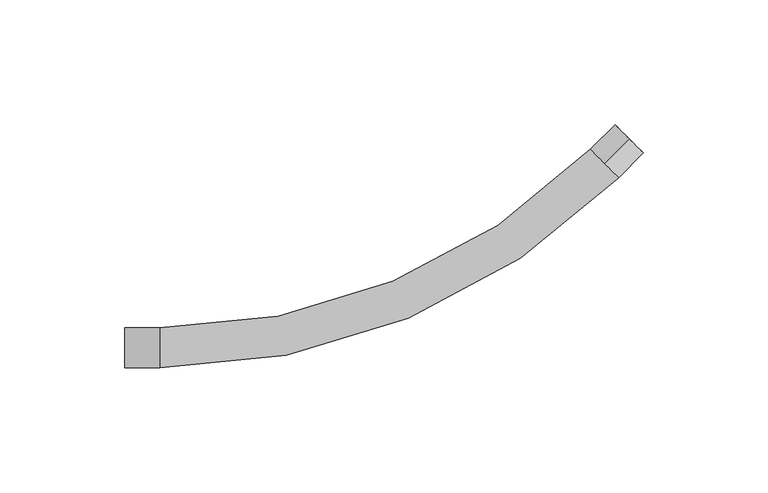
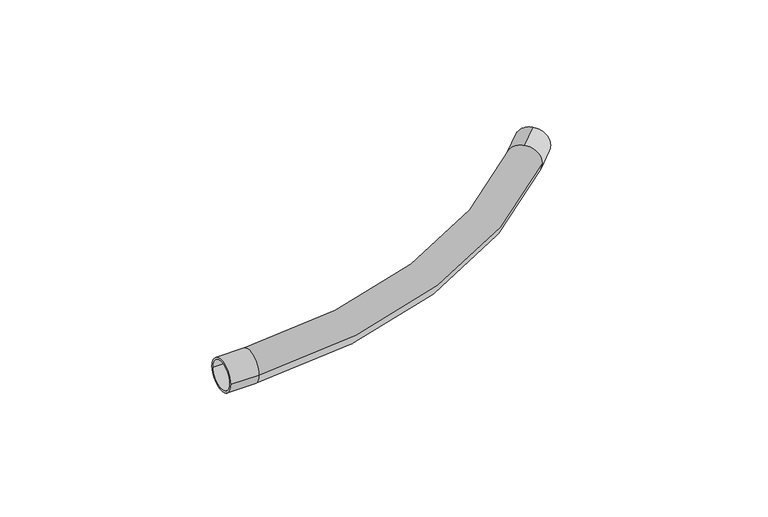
"""IFC4 building model written with IfcOpenShell, lengths in millimetres: cable carrier fitting geometry, КНС_МуфтаГибкаяТрубаТруба_IP65_DKC : Коробка."""

from ifc_helpers import new_model, si_unit, point, frame, origin, place, context, project, spatial, polyline, circle_curve, ellipse_curve, trimmed, source, transform, mapped, element, save
from ifc_brep_helpers import plane_surface, cylinder_surface, revolved_surface, advanced_brep


def cable_carrier_fitting_06bcf47e(model_context):
    return source(origin(), model_context, "Body", "AdvancedBrep", [
        advanced_brep(
        [(-118.4238313, -8.0, 0.0), (-118.4238313, 8.0, 0.0), (-118.4238313, -7.0, 0.0), (-118.4238313, 7.0, 0.0), (-104.4238313, -8.0, 0.0), (-104.4238313, 8.0, 0.0), (-104.4238313, -7.0, 0.0), (-104.4238313, 7.0, 0.0), (73.8387993, 73.8387993, 7.0), (73.8387993, 73.8387993, -7.0), (79.4956535, 68.181945, 0.0), (73.8387993, 73.8387993, 8.0), (68.181945, 79.4956535, 0.0), (73.8387993, 73.8387993, -8.0), (83.7382942, 83.7382942, -8.0), (83.7382942, 83.7382942, 8.0), (83.7382942, 83.7382942, -7.0), (83.7382942, 83.7382942, 7.0)],
        [
            (0, 1, circle_curve(frame((-118.4238313, 0.0, 0.0), z_axis=(-1.0, 0.0, 0.0), x_axis=(0.0, 1.0, 0.0)), 8.0)),
            (1, 0, circle_curve(frame((-118.4238313, 0.0, 0.0), z_axis=(-1.0, 0.0, 0.0), x_axis=(0.0, 1.0, 0.0)), 8.0)),
            (2, 3, circle_curve(frame((-118.4238313, 0.0, 0.0), z_axis=(1.0, 0.0, 0.0), x_axis=(0.0, 1.0, 0.0)), 7.0)),
            (3, 2, circle_curve(frame((-118.4238313, 0.0, 0.0), z_axis=(1.0, 0.0, 0.0), x_axis=(0.0, 1.0, 0.0)), 7.0)),
            (0, 4),
            (4, 5, circle_curve(frame((-104.4238313, 0.0, 0.0), z_axis=(-1.0, 0.0, 0.0), x_axis=(0.0, 1.0, 0.0)), 8.0)),
            (5, 1),
            (5, 4, circle_curve(frame((-104.4238313, 0.0, 0.0), z_axis=(-1.0, 0.0, 0.0), x_axis=(0.0, 1.0, 0.0)), 8.0)),
            (2, 6),
            (6, 7, circle_curve(frame((-104.4238313, 0.0, 0.0), z_axis=(1.0, 0.0, 0.0), x_axis=(0.0, 1.0, 0.0)), 7.0)),
            (7, 3),
            (7, 6, circle_curve(frame((-104.4238313, 0.0, 0.0), z_axis=(1.0, 0.0, 0.0), x_axis=(0.0, 1.0, 0.0)), 7.0)),
            (8, 9, circle_curve(frame((73.8387993, 73.8387993, 0.0), z_axis=(0.7071067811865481, 0.707106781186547, 0.0), x_axis=(0.0, 0.0, 1.0)), 7.0)),
            (9, 8, circle_curve(frame((73.8387993, 73.8387993, 0.0), z_axis=(0.7071067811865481, 0.707106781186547, 0.0), x_axis=(0.0, 0.0, 1.0)), 7.0)),
            (4, 10, circle_curve(frame((-104.4238313, 252.1014299, 0.0), z_axis=(0.0, 0.0, 1.0), x_axis=(0.7071067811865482, -0.7071067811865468, 0.0)), 260.1014299)),
            (10, 11, circle_curve(frame((73.8387993, 73.8387993, 0.0), z_axis=(-0.7071067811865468, -0.7071067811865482, 0.0), x_axis=(0.7071067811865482, -0.7071067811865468, 0.0)), 8.0)),
            (11, 12, circle_curve(frame((73.8387993, 73.8387993, 0.0), z_axis=(-0.7071067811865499, -0.7071067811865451, 0.0), x_axis=(0.7071067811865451, -0.7071067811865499, 0.0)), 8.0)),
            (12, 5, circle_curve(frame((-104.4238313, 252.1014299, 0.0), z_axis=(0.0, 0.0, -1.0), x_axis=(0.7071067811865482, -0.7071067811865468, 0.0)), 244.1014299)),
            (12, 13, circle_curve(frame((73.8387993, 73.8387993, 0.0), z_axis=(-0.7071067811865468, -0.7071067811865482, 0.0), x_axis=(0.7071067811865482, -0.7071067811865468, 0.0)), 8.0)),
            (13, 10, circle_curve(frame((73.8387993, 73.8387993, 0.0), z_axis=(-0.7071067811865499, -0.7071067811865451, 0.0), x_axis=(0.7071067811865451, -0.7071067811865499, 0.0)), 8.0)),
            (14, 15, circle_curve(frame((83.7382942, 83.7382942, 0.0), z_axis=(0.7071067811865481, 0.707106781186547, 0.0), x_axis=(0.0, 0.0, 1.0)), 8.0)),
            (15, 14, circle_curve(frame((83.7382942, 83.7382942, 0.0), z_axis=(0.7071067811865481, 0.707106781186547, 0.0), x_axis=(0.0, 0.0, 1.0)), 8.0)),
            (16, 17, circle_curve(frame((83.7382942, 83.7382942, 0.0), z_axis=(-0.7071067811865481, -0.707106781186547, 0.0), x_axis=(0.0, 0.0, 1.0)), 7.0)),
            (17, 16, circle_curve(frame((83.7382942, 83.7382942, 0.0), z_axis=(-0.7071067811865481, -0.707106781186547, 0.0), x_axis=(0.0, 0.0, 1.0)), 7.0)),
            (14, 13),
            (11, 15),
            (16, 9),
            (8, 17),
        ],
        [
            plane_surface(frame((-118.4238313, 0.0, 0.0), z_axis=(-1.0, 0.0, 0.0), x_axis=(0.0, 0.0, 1.0))),
            cylinder_surface(frame((-118.4238313, 0.0, 0.0), z_axis=(-1.0, 0.0, 0.0), x_axis=(0.0, 1.0, 0.0)), 8.0),
            revolved_surface(polyline([(-104.4238313, 7.0, 0.0), (-118.4238313, 7.0, 0.0)]), (-118.4238313, 0.0, 0.0), (1.0, 0.0, 0.0)),
            plane_surface(frame((73.8387993, 73.8387993, 0.0), z_axis=(0.7071067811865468, 0.7071067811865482, 0.0), x_axis=(0.0, 0.0, 1.0))),
            plane_surface(frame((-104.4238313, 0.0, 0.0), z_axis=(-1.0, 0.0, 0.0), x_axis=(0.0, 0.0, 1.0))),
            revolved_surface(trimmed(ellipse_curve(frame((73.8387993, 73.8387993, 0.0), z_axis=(0.7071067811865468, 0.7071067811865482, 0.0), x_axis=(0.7071067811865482, -0.7071067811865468, 0.0)), 8.0, 8.0), [point((68.181945, 79.4956535, 0.0))], [point((79.4956535, 68.181945, 0.0))], True, "CARTESIAN"), (-104.4238313, 252.1014299, 0.0), (0.0, 0.0, -1.0)),
            revolved_surface(trimmed(ellipse_curve(frame((73.8387993, 73.8387993, 0.0), z_axis=(0.7071067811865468, 0.7071067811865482, 0.0), x_axis=(0.7071067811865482, -0.7071067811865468, 0.0)), 8.0, 8.0), [point((79.4956535, 68.181945, 0.0))], [point((68.181945, 79.4956535, 0.0))], True, "CARTESIAN"), (-104.4238313, 252.1014299, 0.0), (0.0, 0.0, -1.0)),
            plane_surface(frame((83.7382942, 83.7382942, 8.0), z_axis=(0.7071067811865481, 0.7071067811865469, 0.0), x_axis=(0.7071067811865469, -0.7071067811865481, 0.0))),
            cylinder_surface(frame((73.8387993, 73.8387993, 0.0), z_axis=(0.7071067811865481, 0.707106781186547, 0.0), x_axis=(0.0, 0.0, 1.0)), 8.0),
            revolved_surface(polyline([(73.8387993, 73.8387993, 7.0), (83.73829420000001, 83.7382942, 7.0)]), (73.8387993, 73.8387993, 0.0), (-0.7071067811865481, -0.707106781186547, 0.0)),
        ],
        [
            (0, [[1, 2], [3, 4]]),
            (1, [[-1, 5, 6, 7]]),
            (1, [[-2, -7, 8, -5]]),
            (2, [[-3, 9, 10, 11]]),
            (2, [[-4, -11, 12, -9]]),
            (3, [[13, 14]]),
            (4, [[-10, -12]]),
            (5, [[15, 16, 17, 18, -6]]),
            (6, [[-15, -8, -18, 19, 20]]),
            (7, [[21, 22], [23, 24]]),
            (8, [[-21, 25, -19, -17, 26]]),
            (8, [[-22, -26, -16, -20, -25]]),
            (9, [[-23, 27, -13, 28]]),
            (9, [[-24, -28, -14, -27]]),
        ],
    ),
    ])


if __name__ == "__main__":
    model = new_model("IFC4")
    model_context = context("Model", 3, world=origin())
    ifc_project = project(units=[si_unit("LENGTHUNIT", "METRE", prefix="MILLI")], contexts=[model_context])
    site = spatial("IfcSite", under=ifc_project)
    building = spatial("IfcBuilding", under=site)
    placement = place(None, origin())
    cable_carrier_fitting_shape = cable_carrier_fitting_06bcf47e(model_context)
    element("IfcCableCarrierFitting", 1, ObjectType="КНС_МуфтаГибкаяТрубаТруба_IP65_DKC : Коробка", at=placement, inside=building, context=model_context, shape_type="MappedRepresentation", body=[
        mapped(cable_carrier_fitting_shape, transform((0.0, 0.0, 0.0), x_axis=(1.0, 0.0, 0.0), y_axis=(0.0, 1.0, 0.0), z_axis=(0.0, 0.0, 1.0))),
    ])
    save(model, "model.ifc")
